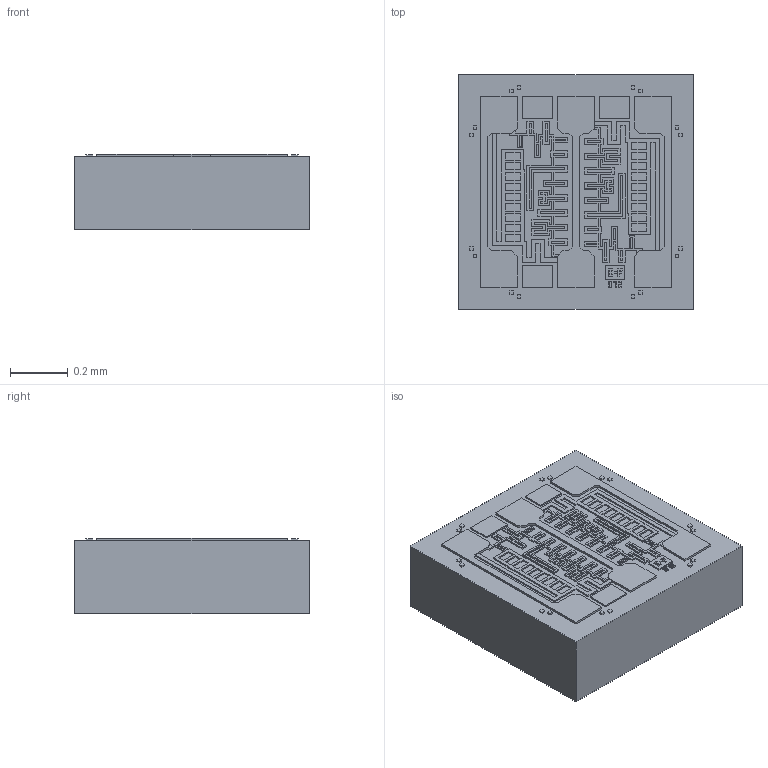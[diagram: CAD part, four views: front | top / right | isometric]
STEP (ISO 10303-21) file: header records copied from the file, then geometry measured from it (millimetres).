
FILE_DESCRIPTION(/* description */ (''),/* implementation_level */ '2;1');
FILE_NAME(/* name */ 'C:\Users\jlima\Desktop\18-0072\18-[0072-01B]-[0078-02C] 07-18-13\3D-Drawing\3D 18-0072-01B-0078-02C.stp',/* time_stamp */ '2020-10-14T12:48:22-04:00',/* author */ ('JLIMA'),/* organization */ (''),/* preprocessor_version */ 'ST-DEVELOPER v17',/* originating_system */ 'Autodesk Inventor 2019',/* authorisation */ '');
FILE_SCHEMA (('AUTOMOTIVE_DESIGN { 1 0 10303 214 3 1 1 }'));
Length unit declared in the file: inch
Products named in the file (1): 3D 18-0072-01B-0078-02C
Bounding box: 0.81 x 0.81 x 0.26 mm (x, y, z)
Volume: 0.2 mm3; surface area: 2.3 mm2
Topology: 1 solids, 1 shells, 740 faces, 2003 edges, 1335 vertices
Faces by surface type: plane 740
Entity records: 23500 total; most frequent: CARTESIAN_POINT 4079, ORIENTED_EDGE 4006, DIRECTION 3485, LINE 2003, VECTOR 2003, EDGE_CURVE 2003, VERTEX_POINT 1335, EDGE_LOOP 810
